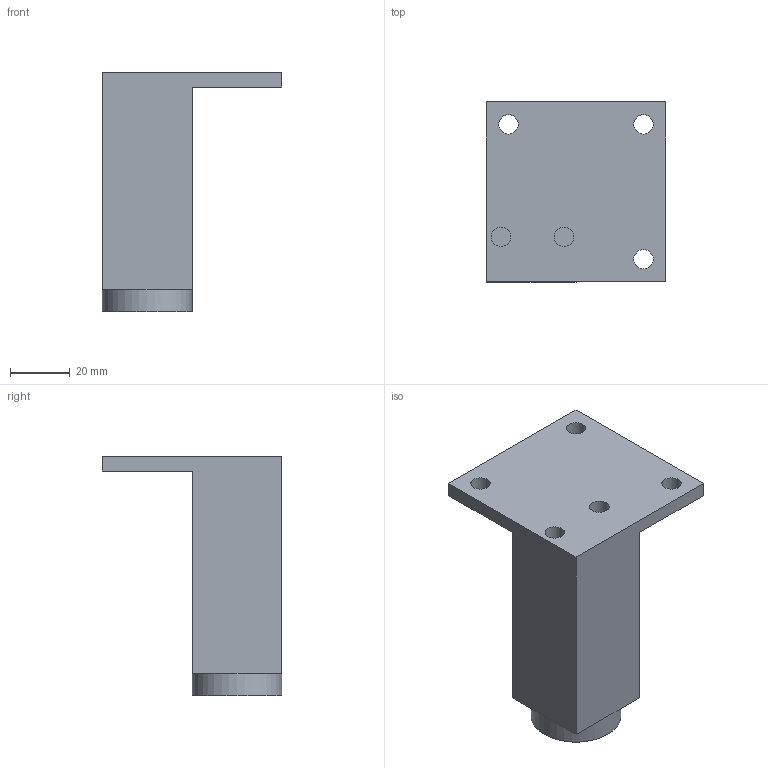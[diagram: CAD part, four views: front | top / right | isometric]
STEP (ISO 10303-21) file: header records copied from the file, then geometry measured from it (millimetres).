
FILE_DESCRIPTION( ( 'STEP AP214' ), '1' );
FILE_NAME( 'D:/Yug/2021/Desk_and_office_organisation/QC/9119445.stp', '2021-01-06T05:08:10', ( '' ), ( '' ), ' ', 'PARTsolutions', ' ' );
FILE_SCHEMA( ( 'AUTOMOTIVE_DESIGN { 1 0 10303 214 1 1 1 1 }' ) );
Length unit declared in the file: millimetre
Products named in the file (1): _9119445
Bounding box: 60 x 60 x 80 mm (x, y, z)
Volume: 83227 mm3; surface area: 17517.9 mm2
Topology: 1 solids, 1 shells, 21 faces, 46 edges, 29 vertices
Faces by surface type: plane 15, cylinder 6
Full cylindrical faces by diameter (mm): 6.48 x5, 30 x1
Entity records: 741 total; most frequent: DIRECTION 99, CARTESIAN_POINT 91, ORIENTED_EDGE 80, EDGE_CURVE 40, AXIS2_PLACEMENT_3D 37, EDGE_LOOP 35, VERTEX_POINT 29, FACE_OUTER_BOUND 27
